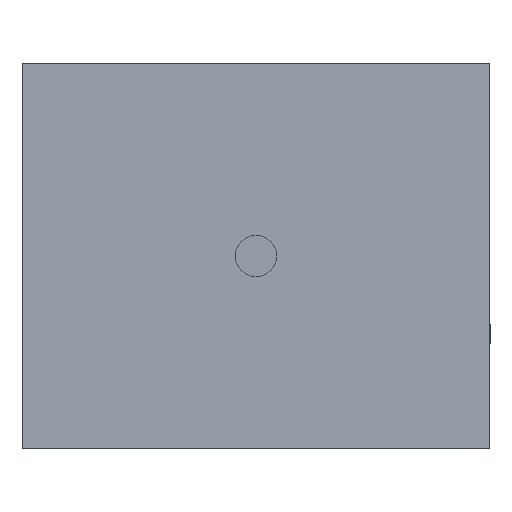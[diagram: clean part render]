
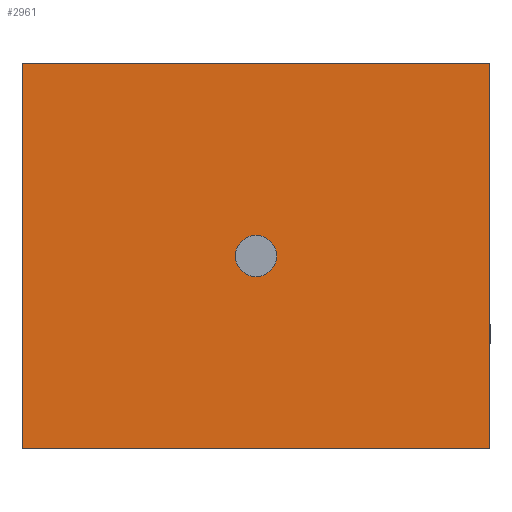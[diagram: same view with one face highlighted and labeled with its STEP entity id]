
A CAD part, front view. The second image highlights one B-rep face of the part: STEP entity #2961.
In plain terms, the highlighted planar face has unit normal (0, -1, 0).
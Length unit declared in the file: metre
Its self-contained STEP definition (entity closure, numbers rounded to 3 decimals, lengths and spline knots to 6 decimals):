
#17 = VERTEX_POINT ( 'NONE', #65 ) ;
#65 = CARTESIAN_POINT ( 'NONE',  ( 0.0345, -0.0331, 0.021 ) ) ;
#128 = EDGE_CURVE ( 'NONE', #3835, #3835, #3379, .T. ) ;
#273 = DIRECTION ( 'NONE',  ( 1., 0., 0. ) ) ;
#928 = ORIENTED_EDGE ( 'NONE', *, *, #7708, .F. ) ;
#1424 = LINE ( 'NONE', #10186, #12574 ) ;
#1714 = DIRECTION ( 'NONE',  ( 0., -1., 0. ) ) ;
#2726 = EDGE_CURVE ( 'NONE', #8005, #17, #4467, .T. ) ;
#2825 = DIRECTION ( 'NONE',  ( 0., 0., -1. ) ) ;
#2914 = EDGE_LOOP ( 'NONE', ( #10614, #8592, #928, #9652 ) ) ;
#2961 = ADVANCED_FACE ( 'NONE', ( #7742, #13335 ), #13222, .T. ) ;
#3379 = CIRCLE ( 'NONE', #8993, 0.00225 ) ;
#3835 = VERTEX_POINT ( 'NONE', #5152 ) ;
#3878 = VERTEX_POINT ( 'NONE', #13583 ) ;
#4024 = DIRECTION ( 'NONE',  ( -1., 0., 0. ) ) ;
#4206 = CARTESIAN_POINT ( 'NONE',  ( -0.0165, -0.0331, 0.021 ) ) ;
#4467 = LINE ( 'NONE', #9625, #12847 ) ;
#4517 = AXIS2_PLACEMENT_3D ( 'NONE', #6919, #1714, #9054 ) ;
#4582 = EDGE_CURVE ( 'NONE', #3878, #8005, #10215, .T. ) ;
#5152 = CARTESIAN_POINT ( 'NONE',  ( 0.00675, -0.0331, 0. ) ) ;
#6738 = VECTOR ( 'NONE', #10319, 1. ) ;
#6919 = CARTESIAN_POINT ( 'NONE',  ( -0.0165, -0.0331, -0.021 ) ) ;
#7436 = LINE ( 'NONE', #8611, #9936 ) ;
#7708 = EDGE_CURVE ( 'NONE', #17, #13506, #1424, .T. ) ;
#7742 = FACE_BOUND ( 'NONE', #8219, .T. ) ;
#7860 = CARTESIAN_POINT ( 'NONE',  ( 0.009, -0.0331, 0. ) ) ;
#8005 = VERTEX_POINT ( 'NONE', #10913 ) ;
#8219 = EDGE_LOOP ( 'NONE', ( #12134 ) ) ;
#8592 = ORIENTED_EDGE ( 'NONE', *, *, #13278, .F. ) ;
#8611 = CARTESIAN_POINT ( 'NONE',  ( -0.0165, -0.0331, -0.021 ) ) ;
#8632 = DIRECTION ( 'NONE',  ( 0., 1., 0. ) ) ;
#8993 = AXIS2_PLACEMENT_3D ( 'NONE', #7860, #8632, #4024 ) ;
#9054 = DIRECTION ( 'NONE',  ( -1., 0., 0. ) ) ;
#9625 = CARTESIAN_POINT ( 'NONE',  ( -0.0165, -0.0331, 0.021 ) ) ;
#9652 = ORIENTED_EDGE ( 'NONE', *, *, #2726, .F. ) ;
#9936 = VECTOR ( 'NONE', #11745, 1. ) ;
#10186 = CARTESIAN_POINT ( 'NONE',  ( 0.0345, -0.0331, 0.021 ) ) ;
#10215 = LINE ( 'NONE', #4206, #6738 ) ;
#10256 = CARTESIAN_POINT ( 'NONE',  ( 0.0345, -0.0331, -0.021 ) ) ;
#10319 = DIRECTION ( 'NONE',  ( 0., 0., 1. ) ) ;
#10614 = ORIENTED_EDGE ( 'NONE', *, *, #4582, .F. ) ;
#10913 = CARTESIAN_POINT ( 'NONE',  ( -0.0165, -0.0331, 0.021 ) ) ;
#11745 = DIRECTION ( 'NONE',  ( -1., 0., 0. ) ) ;
#12134 = ORIENTED_EDGE ( 'NONE', *, *, #128, .T. ) ;
#12574 = VECTOR ( 'NONE', #2825, 1. ) ;
#12847 = VECTOR ( 'NONE', #273, 1. ) ;
#13222 = PLANE ( 'NONE',  #4517 ) ;
#13278 = EDGE_CURVE ( 'NONE', #13506, #3878, #7436, .T. ) ;
#13335 = FACE_OUTER_BOUND ( 'NONE', #2914, .T. ) ;
#13506 = VERTEX_POINT ( 'NONE', #10256 ) ;
#13583 = CARTESIAN_POINT ( 'NONE',  ( -0.0165, -0.0331, -0.021 ) ) ;
